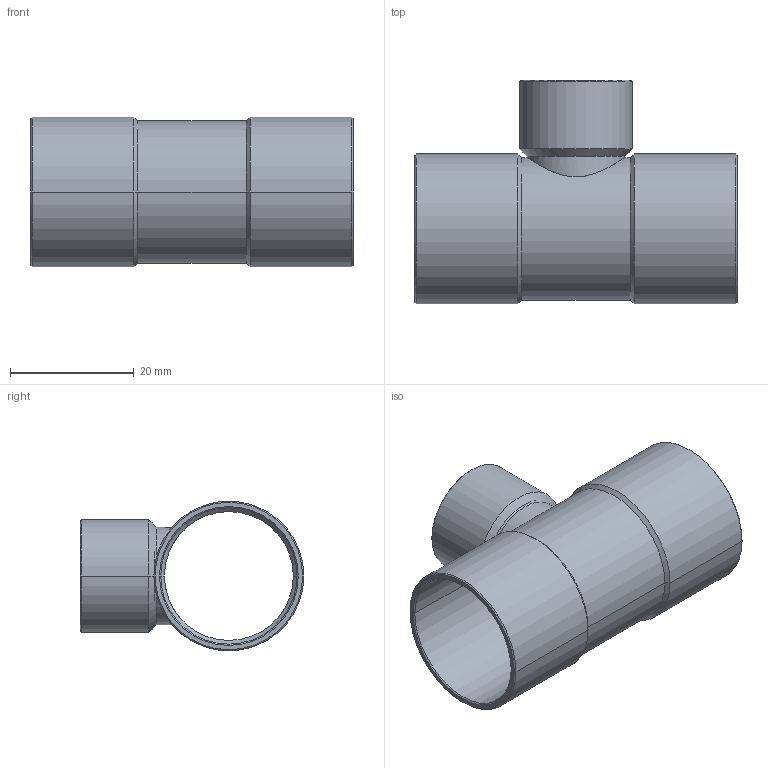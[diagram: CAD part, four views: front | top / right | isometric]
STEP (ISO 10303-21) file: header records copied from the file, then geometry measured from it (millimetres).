
FILE_DESCRIPTION((''),'2;1');
FILE_NAME('P:\Bouwmaten\z-maattekeningen 3D\5000\5130\5130221622.stp','2005-10-26T11:53:44',('Kris'),(''),'Autodesk Inventor 8','Autodesk Inventor 8','');
FILE_SCHEMA(('AUTOMOTIVE_DESIGN { 1 0 10303 214 1 1 1 1 }'));
Length unit declared in the file: millimetre
Products named in the file (1): 5130221622
Bounding box: 52 x 36.1 x 24.2 mm (x, y, z)
Volume: 4611.8 mm3; surface area: 8844.3 mm2
Topology: 1 solids, 1 shells, 49 faces, 110 edges, 62 vertices
Faces by surface type: cone 20, cylinder 16, bspline 10, plane 3
Entity records: 2041 total; most frequent: CARTESIAN_POINT 960, DIRECTION 222, ORIENTED_EDGE 220, EDGE_CURVE 110, AXIS2_PLACEMENT_3D 89, VERTEX_POINT 62, EDGE_LOOP 52, CIRCLE 49
